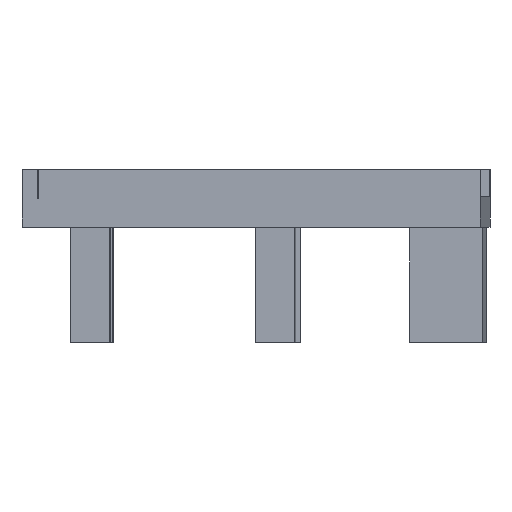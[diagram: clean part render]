
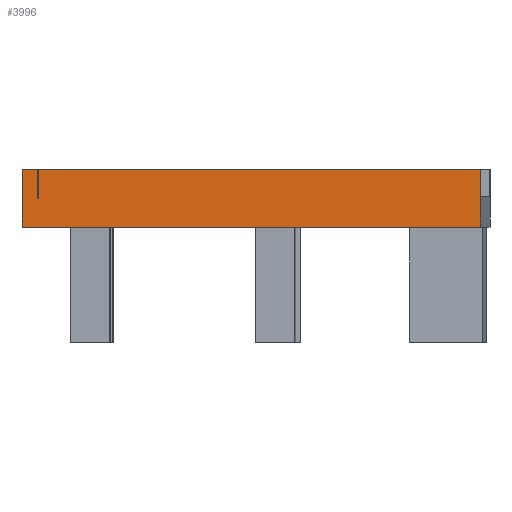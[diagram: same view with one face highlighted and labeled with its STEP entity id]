
A CAD part, left-side view. The second image highlights one B-rep face of the part: STEP entity #3996.
In plain terms, the highlighted planar face has unit normal (-1, 0.019, 0).
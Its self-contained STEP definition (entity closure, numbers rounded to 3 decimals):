
#200 = PLANE('',#201);
#201 = AXIS2_PLACEMENT_3D('',#202,#203,#204);
#202 = CARTESIAN_POINT('',(-106.203,88.367,4.173));
#203 = DIRECTION('',(0.,0.,1.));
#204 = DIRECTION('',(1.,-0.019,0.));
#958 = PLANE('',#959);
#959 = AXIS2_PLACEMENT_3D('',#960,#961,#962);
#960 = CARTESIAN_POINT('',(-106.203,88.367,4.173));
#961 = DIRECTION('',(0.019,1.,0.));
#962 = DIRECTION('',(0.,-0.,1.));
#3035 = PLANE('',#3036);
#3036 = AXIS2_PLACEMENT_3D('',#3037,#3038,#3039);
#3037 = CARTESIAN_POINT('',(-72.009,87.71,6.323));
#3038 = DIRECTION('',(0.,0.,1.));
#3039 = DIRECTION('',(1.,-0.019,0.));
#3626 = PLANE('',#3627);
#3627 = AXIS2_PLACEMENT_3D('',#3628,#3629,#3630);
#3628 = CARTESIAN_POINT('',(-106.788,123.035,4.173));
#3629 = DIRECTION('',(0.019,1.,0.));
#3630 = DIRECTION('',(0.,-0.,1.));
#3667 = VERTEX_POINT('',#3668);
#3668 = CARTESIAN_POINT('',(-106.811,121.835,6.323));
#3682 = PLANE('',#3683);
#3683 = AXIS2_PLACEMENT_3D('',#3684,#3685,#3686);
#3684 = CARTESIAN_POINT('',(-106.811,121.835,4.173));
#3685 = DIRECTION('',(0.019,1.,0.));
#3686 = DIRECTION('',(0.,0.,1.));
#3694 = EDGE_CURVE('',#3695,#3667,#3697,.T.);
#3695 = VERTEX_POINT('',#3696);
#3696 = CARTESIAN_POINT('',(-106.812,121.785,6.323));
#3697 = SURFACE_CURVE('',#3698,(#3702,#3709),.PCURVE_S1.);
#3698 = LINE('',#3699,#3700);
#3699 = CARTESIAN_POINT('',(-106.835,120.585,6.323));
#3700 = VECTOR('',#3701,1.);
#3701 = DIRECTION('',(0.019,1.,0.));
#3702 = PCURVE('',#3035,#3703);
#3703 = DEFINITIONAL_REPRESENTATION('',(#3704),#3708);
#3704 = LINE('',#3705,#3706);
#3705 = CARTESIAN_POINT('',(-35.45,32.2));
#3706 = VECTOR('',#3707,1.);
#3707 = DIRECTION('',(0.,1.));
#3708 = ( GEOMETRIC_REPRESENTATION_CONTEXT(2) 
PARAMETRIC_REPRESENTATION_CONTEXT() REPRESENTATION_CONTEXT('2D SPACE',''
  ) );
#3709 = PCURVE('',#3710,#3715);
#3710 = PLANE('',#3711);
#3711 = AXIS2_PLACEMENT_3D('',#3712,#3713,#3714);
#3712 = CARTESIAN_POINT('',(-107.453,88.391,4.173));
#3713 = DIRECTION('',(1.,-0.019,0.));
#3714 = DIRECTION('',(0.,0.,1.));
#3715 = DEFINITIONAL_REPRESENTATION('',(#3716),#3720);
#3716 = LINE('',#3717,#3718);
#3717 = CARTESIAN_POINT('',(2.15,-32.2));
#3718 = VECTOR('',#3719,1.);
#3719 = DIRECTION('',(0.,-1.));
#3720 = ( GEOMETRIC_REPRESENTATION_CONTEXT(2) 
PARAMETRIC_REPRESENTATION_CONTEXT() REPRESENTATION_CONTEXT('2D SPACE',''
  ) );
#3738 = PLANE('',#3739);
#3739 = AXIS2_PLACEMENT_3D('',#3740,#3741,#3742);
#3740 = CARTESIAN_POINT('',(-106.812,121.785,4.173));
#3741 = DIRECTION('',(0.019,1.,0.));
#3742 = DIRECTION('',(0.,0.,1.));
#3887 = PLANE('',#3888);
#3888 = AXIS2_PLACEMENT_3D('',#3889,#3890,#3891);
#3889 = CARTESIAN_POINT('',(-107.453,88.391,8.523));
#3890 = DIRECTION('',(0.,0.,1.));
#3891 = DIRECTION('',(1.,-0.019,0.));
#3902 = EDGE_CURVE('',#3903,#3905,#3907,.T.);
#3903 = VERTEX_POINT('',#3904);
#3904 = CARTESIAN_POINT('',(-107.453,88.391,8.523));
#3905 = VERTEX_POINT('',#3906);
#3906 = CARTESIAN_POINT('',(-106.812,121.785,8.523));
#3907 = SURFACE_CURVE('',#3908,(#3912,#3919),.PCURVE_S1.);
#3908 = LINE('',#3909,#3910);
#3909 = CARTESIAN_POINT('',(-107.453,88.391,8.523));
#3910 = VECTOR('',#3911,1.);
#3911 = DIRECTION('',(0.019,1.,0.));
#3912 = PCURVE('',#3887,#3913);
#3913 = DEFINITIONAL_REPRESENTATION('',(#3914),#3918);
#3914 = LINE('',#3915,#3916);
#3915 = CARTESIAN_POINT('',(0.,0.));
#3916 = VECTOR('',#3917,1.);
#3917 = DIRECTION('',(0.,1.));
#3918 = ( GEOMETRIC_REPRESENTATION_CONTEXT(2) 
PARAMETRIC_REPRESENTATION_CONTEXT() REPRESENTATION_CONTEXT('2D SPACE',''
  ) );
#3919 = PCURVE('',#3710,#3920);
#3920 = DEFINITIONAL_REPRESENTATION('',(#3921),#3925);
#3921 = LINE('',#3922,#3923);
#3922 = CARTESIAN_POINT('',(4.35,0.));
#3923 = VECTOR('',#3924,1.);
#3924 = DIRECTION('',(0.,-1.));
#3925 = ( GEOMETRIC_REPRESENTATION_CONTEXT(2) 
PARAMETRIC_REPRESENTATION_CONTEXT() REPRESENTATION_CONTEXT('2D SPACE',''
  ) );
#3974 = EDGE_CURVE('',#3695,#3905,#3975,.T.);
#3975 = SURFACE_CURVE('',#3976,(#3980,#3987),.PCURVE_S1.);
#3976 = LINE('',#3977,#3978);
#3977 = CARTESIAN_POINT('',(-106.812,121.785,4.173));
#3978 = VECTOR('',#3979,1.);
#3979 = DIRECTION('',(0.,0.,1.));
#3980 = PCURVE('',#3738,#3981);
#3981 = DEFINITIONAL_REPRESENTATION('',(#3982),#3986);
#3982 = LINE('',#3983,#3984);
#3983 = CARTESIAN_POINT('',(0.,0.));
#3984 = VECTOR('',#3985,1.);
#3985 = DIRECTION('',(1.,0.));
#3986 = ( GEOMETRIC_REPRESENTATION_CONTEXT(2) 
PARAMETRIC_REPRESENTATION_CONTEXT() REPRESENTATION_CONTEXT('2D SPACE',''
  ) );
#3987 = PCURVE('',#3710,#3988);
#3988 = DEFINITIONAL_REPRESENTATION('',(#3989),#3993);
#3989 = LINE('',#3990,#3991);
#3990 = CARTESIAN_POINT('',(0.,-33.4));
#3991 = VECTOR('',#3992,1.);
#3992 = DIRECTION('',(1.,0.));
#3993 = ( GEOMETRIC_REPRESENTATION_CONTEXT(2) 
PARAMETRIC_REPRESENTATION_CONTEXT() REPRESENTATION_CONTEXT('2D SPACE',''
  ) );
#3996 = ADVANCED_FACE('',(#3997),#3710,.F.);
#3997 = FACE_BOUND('',#3998,.F.);
#3998 = EDGE_LOOP('',(#3999,#4024,#4047,#4075,#4096,#4097,#4098,#4099));
#3999 = ORIENTED_EDGE('',*,*,#4000,.T.);
#4000 = EDGE_CURVE('',#4001,#4003,#4005,.T.);
#4001 = VERTEX_POINT('',#4002);
#4002 = CARTESIAN_POINT('',(-107.453,88.391,4.173));
#4003 = VERTEX_POINT('',#4004);
#4004 = CARTESIAN_POINT('',(-106.788,123.035,4.173));
#4005 = SURFACE_CURVE('',#4006,(#4010,#4017),.PCURVE_S1.);
#4006 = LINE('',#4007,#4008);
#4007 = CARTESIAN_POINT('',(-107.453,88.391,4.173));
#4008 = VECTOR('',#4009,1.);
#4009 = DIRECTION('',(0.019,1.,0.));
#4010 = PCURVE('',#3710,#4011);
#4011 = DEFINITIONAL_REPRESENTATION('',(#4012),#4016);
#4012 = LINE('',#4013,#4014);
#4013 = CARTESIAN_POINT('',(0.,0.));
#4014 = VECTOR('',#4015,1.);
#4015 = DIRECTION('',(0.,-1.));
#4016 = ( GEOMETRIC_REPRESENTATION_CONTEXT(2) 
PARAMETRIC_REPRESENTATION_CONTEXT() REPRESENTATION_CONTEXT('2D SPACE',''
  ) );
#4017 = PCURVE('',#200,#4018);
#4018 = DEFINITIONAL_REPRESENTATION('',(#4019),#4023);
#4019 = LINE('',#4020,#4021);
#4020 = CARTESIAN_POINT('',(-1.25,0.));
#4021 = VECTOR('',#4022,1.);
#4022 = DIRECTION('',(0.,1.));
#4023 = ( GEOMETRIC_REPRESENTATION_CONTEXT(2) 
PARAMETRIC_REPRESENTATION_CONTEXT() REPRESENTATION_CONTEXT('2D SPACE',''
  ) );
#4024 = ORIENTED_EDGE('',*,*,#4025,.F.);
#4025 = EDGE_CURVE('',#4026,#4003,#4028,.T.);
#4026 = VERTEX_POINT('',#4027);
#4027 = CARTESIAN_POINT('',(-106.788,123.035,8.523));
#4028 = SURFACE_CURVE('',#4029,(#4033,#4040),.PCURVE_S1.);
#4029 = LINE('',#4030,#4031);
#4030 = CARTESIAN_POINT('',(-106.788,123.035,8.523));
#4031 = VECTOR('',#4032,1.);
#4032 = DIRECTION('',(0.,0.,-1.));
#4033 = PCURVE('',#3710,#4034);
#4034 = DEFINITIONAL_REPRESENTATION('',(#4035),#4039);
#4035 = LINE('',#4036,#4037);
#4036 = CARTESIAN_POINT('',(4.35,-34.65));
#4037 = VECTOR('',#4038,1.);
#4038 = DIRECTION('',(-1.,-0.));
#4039 = ( GEOMETRIC_REPRESENTATION_CONTEXT(2) 
PARAMETRIC_REPRESENTATION_CONTEXT() REPRESENTATION_CONTEXT('2D SPACE',''
  ) );
#4040 = PCURVE('',#3626,#4041);
#4041 = DEFINITIONAL_REPRESENTATION('',(#4042),#4046);
#4042 = LINE('',#4043,#4044);
#4043 = CARTESIAN_POINT('',(4.35,0.));
#4044 = VECTOR('',#4045,1.);
#4045 = DIRECTION('',(-1.,0.));
#4046 = ( GEOMETRIC_REPRESENTATION_CONTEXT(2) 
PARAMETRIC_REPRESENTATION_CONTEXT() REPRESENTATION_CONTEXT('2D SPACE',''
  ) );
#4047 = ORIENTED_EDGE('',*,*,#4048,.F.);
#4048 = EDGE_CURVE('',#4049,#4026,#4051,.T.);
#4049 = VERTEX_POINT('',#4050);
#4050 = CARTESIAN_POINT('',(-106.811,121.835,8.523));
#4051 = SURFACE_CURVE('',#4052,(#4056,#4063),.PCURVE_S1.);
#4052 = LINE('',#4053,#4054);
#4053 = CARTESIAN_POINT('',(-106.811,121.835,8.523));
#4054 = VECTOR('',#4055,1.);
#4055 = DIRECTION('',(0.019,1.,0.));
#4056 = PCURVE('',#3710,#4057);
#4057 = DEFINITIONAL_REPRESENTATION('',(#4058),#4062);
#4058 = LINE('',#4059,#4060);
#4059 = CARTESIAN_POINT('',(4.35,-33.45));
#4060 = VECTOR('',#4061,1.);
#4061 = DIRECTION('',(0.,-1.));
#4062 = ( GEOMETRIC_REPRESENTATION_CONTEXT(2) 
PARAMETRIC_REPRESENTATION_CONTEXT() REPRESENTATION_CONTEXT('2D SPACE',''
  ) );
#4063 = PCURVE('',#4064,#4069);
#4064 = PLANE('',#4065);
#4065 = AXIS2_PLACEMENT_3D('',#4066,#4067,#4068);
#4066 = CARTESIAN_POINT('',(-106.811,121.835,8.523));
#4067 = DIRECTION('',(0.,0.,1.));
#4068 = DIRECTION('',(1.,-0.019,0.));
#4069 = DEFINITIONAL_REPRESENTATION('',(#4070),#4074);
#4070 = LINE('',#4071,#4072);
#4071 = CARTESIAN_POINT('',(0.,0.));
#4072 = VECTOR('',#4073,1.);
#4073 = DIRECTION('',(0.,1.));
#4074 = ( GEOMETRIC_REPRESENTATION_CONTEXT(2) 
PARAMETRIC_REPRESENTATION_CONTEXT() REPRESENTATION_CONTEXT('2D SPACE',''
  ) );
#4075 = ORIENTED_EDGE('',*,*,#4076,.F.);
#4076 = EDGE_CURVE('',#3667,#4049,#4077,.T.);
#4077 = SURFACE_CURVE('',#4078,(#4082,#4089),.PCURVE_S1.);
#4078 = LINE('',#4079,#4080);
#4079 = CARTESIAN_POINT('',(-106.811,121.835,4.173));
#4080 = VECTOR('',#4081,1.);
#4081 = DIRECTION('',(0.,0.,1.));
#4082 = PCURVE('',#3710,#4083);
#4083 = DEFINITIONAL_REPRESENTATION('',(#4084),#4088);
#4084 = LINE('',#4085,#4086);
#4085 = CARTESIAN_POINT('',(0.,-33.45));
#4086 = VECTOR('',#4087,1.);
#4087 = DIRECTION('',(1.,0.));
#4088 = ( GEOMETRIC_REPRESENTATION_CONTEXT(2) 
PARAMETRIC_REPRESENTATION_CONTEXT() REPRESENTATION_CONTEXT('2D SPACE',''
  ) );
#4089 = PCURVE('',#3682,#4090);
#4090 = DEFINITIONAL_REPRESENTATION('',(#4091),#4095);
#4091 = LINE('',#4092,#4093);
#4092 = CARTESIAN_POINT('',(0.,0.));
#4093 = VECTOR('',#4094,1.);
#4094 = DIRECTION('',(1.,0.));
#4095 = ( GEOMETRIC_REPRESENTATION_CONTEXT(2) 
PARAMETRIC_REPRESENTATION_CONTEXT() REPRESENTATION_CONTEXT('2D SPACE',''
  ) );
#4096 = ORIENTED_EDGE('',*,*,#3694,.F.);
#4097 = ORIENTED_EDGE('',*,*,#3974,.T.);
#4098 = ORIENTED_EDGE('',*,*,#3902,.F.);
#4099 = ORIENTED_EDGE('',*,*,#4100,.T.);
#4100 = EDGE_CURVE('',#3903,#4001,#4101,.T.);
#4101 = SURFACE_CURVE('',#4102,(#4106,#4113),.PCURVE_S1.);
#4102 = LINE('',#4103,#4104);
#4103 = CARTESIAN_POINT('',(-107.453,88.391,8.523));
#4104 = VECTOR('',#4105,1.);
#4105 = DIRECTION('',(0.,0.,-1.));
#4106 = PCURVE('',#3710,#4107);
#4107 = DEFINITIONAL_REPRESENTATION('',(#4108),#4112);
#4108 = LINE('',#4109,#4110);
#4109 = CARTESIAN_POINT('',(4.35,0.));
#4110 = VECTOR('',#4111,1.);
#4111 = DIRECTION('',(-1.,0.));
#4112 = ( GEOMETRIC_REPRESENTATION_CONTEXT(2) 
PARAMETRIC_REPRESENTATION_CONTEXT() REPRESENTATION_CONTEXT('2D SPACE',''
  ) );
#4113 = PCURVE('',#958,#4114);
#4114 = DEFINITIONAL_REPRESENTATION('',(#4115),#4119);
#4115 = LINE('',#4116,#4117);
#4116 = CARTESIAN_POINT('',(4.35,-1.25));
#4117 = VECTOR('',#4118,1.);
#4118 = DIRECTION('',(-1.,0.));
#4119 = ( GEOMETRIC_REPRESENTATION_CONTEXT(2) 
PARAMETRIC_REPRESENTATION_CONTEXT() REPRESENTATION_CONTEXT('2D SPACE',''
  ) );
